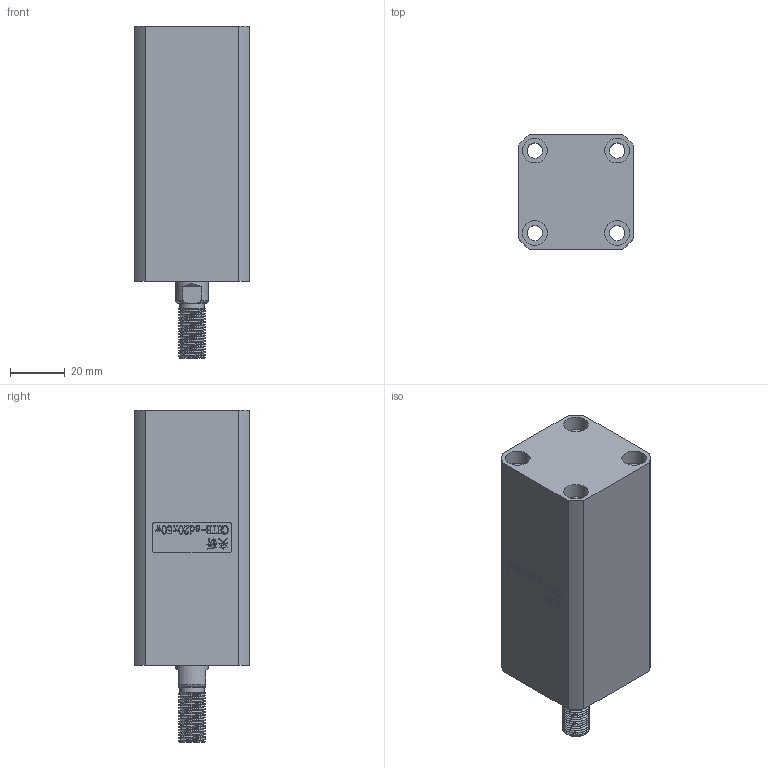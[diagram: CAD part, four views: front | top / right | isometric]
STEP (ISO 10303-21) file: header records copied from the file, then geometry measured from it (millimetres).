
FILE_DESCRIPTION(/* description */ (''),/* implementation_level */ '2;1');
FILE_NAME(/* name */ 'CHTB-sd20x50w.stp',/* time_stamp */ '2022-04-29T15:18:38+08:00',/* author */ (''),/* organization */ (''),/* preprocessor_version */ 'ST-DEVELOPER v16.7',/* originating_system */ 'SIEMENS PLM Software NX 12.0',/* authorisation */ '');
FILE_SCHEMA (('AUTOMOTIVE_DESIGN { 1 0 10303 214 3 1 1 1 }'));
Length unit declared in the file: millimetre
Products named in the file (1): CHTB-sd20x50w
Bounding box: 42 x 42 x 121 mm (x, y, z)
Volume: 139680.9 mm3; surface area: 41790.6 mm2
Topology: 3 solids, 3 shells, 451 faces, 1284 edges, 885 vertices
Faces by surface type: plane 275, extrusion 93, cylinder 49, torus 18, bspline 11, cone 5
Full cylindrical faces by diameter (mm): 3 x4, 5.6 x4, 7.9 x2, 9 x9, 12 x2, 16 x2, 18 x1, 20 x5, 27 x9
Entity records: 23757 total; most frequent: CARTESIAN_POINT 10746, ORIENTED_EDGE 2392, DIRECTION 1730, EDGE_CURVE 1196, VERTEX_POINT 862, VECTOR 852, LINE 759, EDGE_LOOP 556
